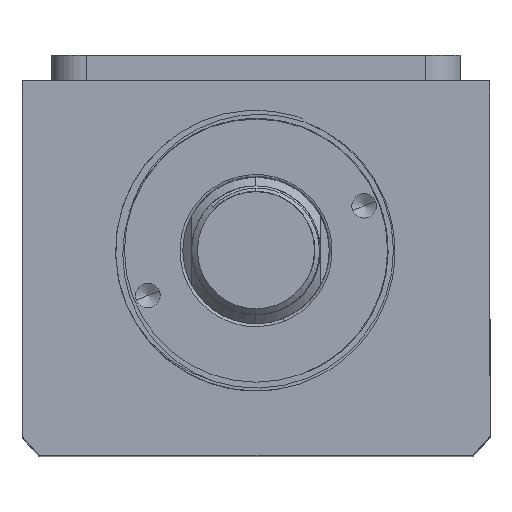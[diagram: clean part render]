
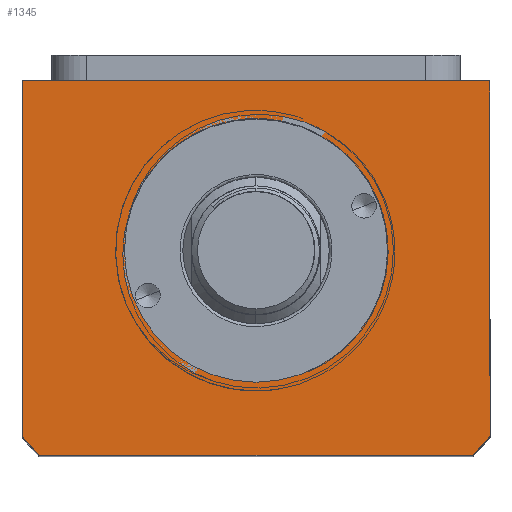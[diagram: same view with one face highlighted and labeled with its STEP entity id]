
A CAD part, top view. The second image highlights one B-rep face of the part: STEP entity #1345.
In plain terms, the highlighted planar face has unit normal (0, 0, 1).
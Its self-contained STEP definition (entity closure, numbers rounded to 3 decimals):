
#32 = DIRECTION ( 'NONE',  ( 1., 0., 0. ) ) ;
#641 = DIRECTION ( 'NONE',  ( 0., 0., 1. ) ) ;
#872 = ORIENTED_EDGE ( 'NONE', *, *, #7302, .T. ) ;
#978 = ORIENTED_EDGE ( 'NONE', *, *, #9701, .T. ) ;
#1168 = EDGE_CURVE ( 'NONE', #1296, #12062, #7929, .T. ) ;
#1296 = VERTEX_POINT ( 'NONE', #7477 ) ;
#1345 = ADVANCED_FACE ( 'NONE', ( #13039, #2195 ), #6184, .T. ) ;
#1854 = VECTOR ( 'NONE', #14696, 1000. ) ;
#1897 = DIRECTION ( 'NONE',  ( 0., 0., 1. ) ) ;
#1970 = AXIS2_PLACEMENT_3D ( 'NONE', #10031, #1897, #11392 ) ;
#2195 = FACE_OUTER_BOUND ( 'NONE', #15492, .T. ) ;
#2635 = CARTESIAN_POINT ( 'NONE',  ( 40., -11.507, 155. ) ) ;
#3087 = AXIS2_PLACEMENT_3D ( 'NONE', #8769, #641, #10126 ) ;
#3543 = ORIENTED_EDGE ( 'NONE', *, *, #10718, .T. ) ;
#3627 = DIRECTION ( 'NONE',  ( 0., 0., 1. ) ) ;
#3800 = CARTESIAN_POINT ( 'NONE',  ( -40., -75.507, 155. ) ) ;
#4025 = VERTEX_POINT ( 'NONE', #12504 ) ;
#4492 = ORIENTED_EDGE ( 'NONE', *, *, #8794, .T. ) ;
#4516 = VERTEX_POINT ( 'NONE', #15724 ) ;
#4874 = VECTOR ( 'NONE', #11971, 1000. ) ;
#5544 = ORIENTED_EDGE ( 'NONE', *, *, #15447, .T. ) ;
#5677 = VERTEX_POINT ( 'NONE', #9036 ) ;
#6184 = PLANE ( 'NONE',  #13801 ) ;
#6376 = VERTEX_POINT ( 'NONE', #17199 ) ;
#7302 = EDGE_CURVE ( 'NONE', #13579, #5677, #12095, .T. ) ;
#7401 = EDGE_CURVE ( 'NONE', #7507, #13579, #11680, .T. ) ;
#7477 = CARTESIAN_POINT ( 'NONE',  ( -22.5, -40.507, 155. ) ) ;
#7507 = VERTEX_POINT ( 'NONE', #16417 ) ;
#7543 = DIRECTION ( 'NONE',  ( 1., 0., 0. ) ) ;
#7654 = ORIENTED_EDGE ( 'NONE', *, *, #1168, .F. ) ;
#7929 = CIRCLE ( 'NONE', #1970, 22.5 ) ;
#8152 = DIRECTION ( 'NONE',  ( 0., 0., 1. ) ) ;
#8398 = ORIENTED_EDGE ( 'NONE', *, *, #7401, .T. ) ;
#8769 = CARTESIAN_POINT ( 'NONE',  ( 0., -40.507, 155. ) ) ;
#8794 = EDGE_CURVE ( 'NONE', #5677, #4516, #12273, .T. ) ;
#8844 = CIRCLE ( 'NONE', #14725, 51. ) ;
#9036 = CARTESIAN_POINT ( 'NONE',  ( -40., -11.507, 155. ) ) ;
#9088 = LINE ( 'NONE', #3800, #1854 ) ;
#9322 = ORIENTED_EDGE ( 'NONE', *, *, #16129, .F. ) ;
#9631 = CARTESIAN_POINT ( 'NONE',  ( -40., -11.507, 155. ) ) ;
#9701 = EDGE_CURVE ( 'NONE', #6376, #4025, #9088, .T. ) ;
#10031 = CARTESIAN_POINT ( 'NONE',  ( 0., -40.507, 155. ) ) ;
#10126 = DIRECTION ( 'NONE',  ( 1., 0., 0. ) ) ;
#10611 = CARTESIAN_POINT ( 'NONE',  ( -40., -11.507, 155. ) ) ;
#10718 = EDGE_CURVE ( 'NONE', #4025, #7507, #17009, .T. ) ;
#10985 = DIRECTION ( 'NONE',  ( 0., -1., 0. ) ) ;
#11232 = VECTOR ( 'NONE', #14888, 1000. ) ;
#11392 = DIRECTION ( 'NONE',  ( 1., 0., 0. ) ) ;
#11576 = CARTESIAN_POINT ( 'NONE',  ( 0., 0., 155. ) ) ;
#11680 = LINE ( 'NONE', #2635, #11232 ) ;
#11772 = CARTESIAN_POINT ( 'NONE',  ( 0., -40.507, 155. ) ) ;
#11854 = VECTOR ( 'NONE', #10985, 1000. ) ;
#11971 = DIRECTION ( 'NONE',  ( -1., 0., 0. ) ) ;
#12062 = VERTEX_POINT ( 'NONE', #13750 ) ;
#12095 = LINE ( 'NONE', #10611, #4874 ) ;
#12273 = LINE ( 'NONE', #9631, #11854 ) ;
#12504 = CARTESIAN_POINT ( 'NONE',  ( 37.094, -75.507, 155. ) ) ;
#13039 = FACE_BOUND ( 'NONE', #14496, .T. ) ;
#13145 = DIRECTION ( 'NONE',  ( 1., 0., 0. ) ) ;
#13174 = AXIS2_PLACEMENT_3D ( 'NONE', #11772, #3627, #13145 ) ;
#13579 = VERTEX_POINT ( 'NONE', #16394 ) ;
#13750 = CARTESIAN_POINT ( 'NONE',  ( 22.5, -40.507, 155. ) ) ;
#13801 = AXIS2_PLACEMENT_3D ( 'NONE', #11576, #15689, #7543 ) ;
#14496 = EDGE_LOOP ( 'NONE', ( #9322, #7654 ) ) ;
#14696 = DIRECTION ( 'NONE',  ( 1., 0., 0. ) ) ;
#14725 = AXIS2_PLACEMENT_3D ( 'NONE', #16285, #8152, #32 ) ;
#14888 = DIRECTION ( 'NONE',  ( 0., 1., 0. ) ) ;
#14988 = CIRCLE ( 'NONE', #3087, 22.5 ) ;
#15447 = EDGE_CURVE ( 'NONE', #4516, #6376, #8844, .T. ) ;
#15492 = EDGE_LOOP ( 'NONE', ( #4492, #5544, #978, #3543, #8398, #872 ) ) ;
#15689 = DIRECTION ( 'NONE',  ( 0., 0., 1. ) ) ;
#15724 = CARTESIAN_POINT ( 'NONE',  ( -40., -72.145, 155. ) ) ;
#16129 = EDGE_CURVE ( 'NONE', #12062, #1296, #14988, .T. ) ;
#16285 = CARTESIAN_POINT ( 'NONE',  ( 0., -40.507, 155. ) ) ;
#16394 = CARTESIAN_POINT ( 'NONE',  ( 40., -11.507, 155. ) ) ;
#16417 = CARTESIAN_POINT ( 'NONE',  ( 40., -72.145, 155. ) ) ;
#17009 = CIRCLE ( 'NONE', #13174, 51. ) ;
#17199 = CARTESIAN_POINT ( 'NONE',  ( -37.094, -75.507, 155. ) ) ;
